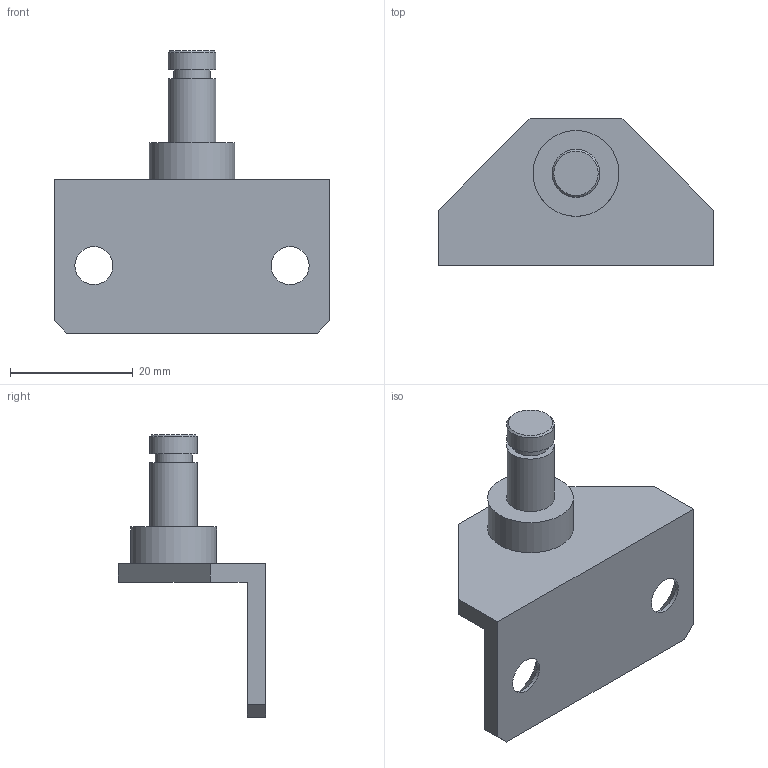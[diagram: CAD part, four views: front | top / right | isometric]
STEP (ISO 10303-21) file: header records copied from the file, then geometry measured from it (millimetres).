
FILE_DESCRIPTION( ( 'STEP AP214' ), ' ' );
FILE_NAME( 'p:/temp/worker_101/4596_1924/app_40_02017102309335474117641192d056f_000000_00_00_000000/format_0/Beschlag 22.stp', '2017-10-23T07:33:54', ( '' ), ( '' ), ' ', 'PARTsolutions', ' ' );
FILE_SCHEMA( ( 'AUTOMOTIVE_DESIGN { 1 0 10303 214 1 1 1 1 }' ) );
Length unit declared in the file: millimetre
Products named in the file (1): _Beschlag 22
Bounding box: 45 x 24 x 46 mm (x, y, z)
Volume: 6812.8 mm3; surface area: 4783 mm2
Topology: 1 solids, 1 shells, 25 faces, 54 edges, 35 vertices
Faces by surface type: plane 16, cylinder 6, cone 3
Full cylindrical faces by diameter (mm): 6 x1, 6.2 x2, 7.8 x2, 14 x1
Entity records: 858 total; most frequent: DIRECTION 112, CARTESIAN_POINT 106, ORIENTED_EDGE 90, EDGE_CURVE 45, EDGE_LOOP 42, AXIS2_PLACEMENT_3D 41, VERTEX_POINT 35, FACE_OUTER_BOUND 31
